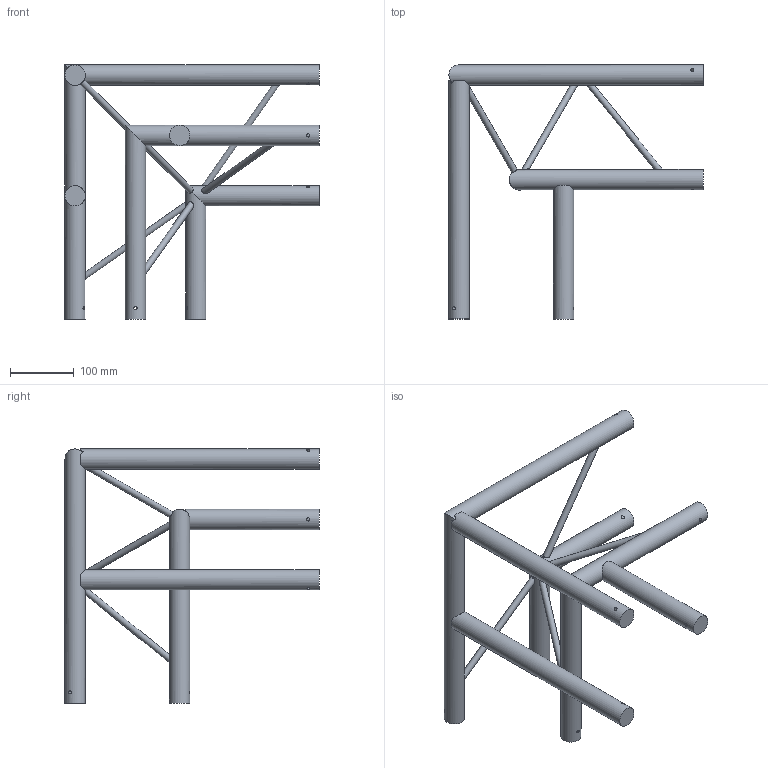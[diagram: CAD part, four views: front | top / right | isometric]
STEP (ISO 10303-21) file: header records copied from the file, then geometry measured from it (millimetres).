
FILE_DESCRIPTION(/* description */ (''),/* implementation_level */ '2;1');
FILE_NAME(/* name */ 'M:\Symbolen_NIEUW\STP\Corners\E20D\E20D-C012_260031774.stp',/* time_stamp */ '2017-11-16T15:06:47+01:00',/* author */ ('Kees'),/* organization */ (''),/* preprocessor_version */ 'ST-DEVELOPER v16.13',/* originating_system */ 'Autodesk Inventor 2018',/* authorisation */ '');
FILE_SCHEMA (('AUTOMOTIVE_DESIGN { 1 0 10303 214 3 1 1 }'));
Length unit declared in the file: millimetre
Products named in the file (1): 260031774
Bounding box: 400 x 400 x 400 mm (x, y, z)
Volume: 2230938.1 mm3; surface area: 321215.2 mm2
Topology: 6 solids, 6 shells, 76 faces, 190 edges, 128 vertices
Faces by surface type: cylinder 39, plane 37
Full cylindrical faces by diameter (mm): 5 x9, 8 x1, 10 x6, 32 x9
Entity records: 3096 total; most frequent: CARTESIAN_POINT 1093, ORIENTED_EDGE 348, DIRECTION 336, VERTEX_POINT 174, EDGE_CURVE 174, EDGE_LOOP 150, AXIS2_PLACEMENT_3D 138, FACE_BOUND 86
